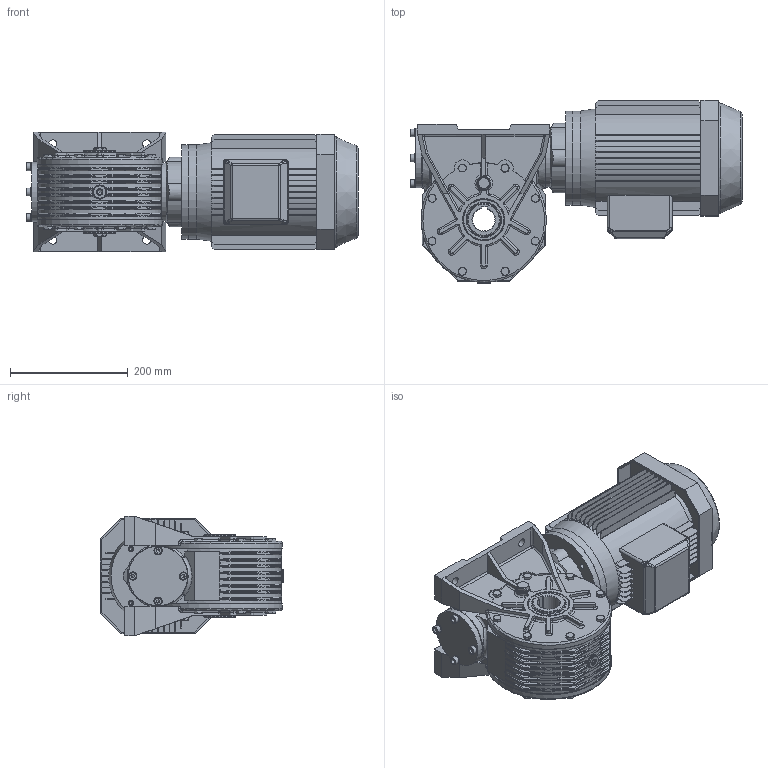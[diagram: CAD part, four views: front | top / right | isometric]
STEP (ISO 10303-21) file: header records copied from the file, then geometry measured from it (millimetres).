
FILE_DESCRIPTION((''),'2;1');
FILE_NAME('Y:\Archivi Inventor\Prog_01\GRAND_50\complessivi\Figurini\MRV50 sito\100l\mrv50_P1_100L_B14.stp','2013-02-08T10:38:04',('tech3'),(''),'Autodesk Inventor 2013','Autodesk Inventor 2013','');
FILE_SCHEMA(('AUTOMOTIVE_DESIGN { 1 0 10303 214 1 1 1 1 }'));
Length unit declared in the file: millimetre
Products named in the file (18): mrv50_100_112_b14; mrv50_fig; Figurino_carcassa_MRV50; 0105028; 0105029; figurino_corona_MRV50; figurino_0105010; Guarnizione 3_8 GAS; Tappo 3_8 GAS_esagn_incsst; Tappo3_8 GAS; figurino_0105009; ISO 4017 M8 x 20; 55_70_8; UNI 6592 8.4 x 14; UNI 5931  M 8 x  25; 0105006; DIN EN ISO 4762 M8 x 20; motori B14 100
Assembly tree (50 placements, depth 3):
  mrv50_100_112_b14
    mrv50_fig
      Figurino_carcassa_MRV50
      0105028  x2
      0105029  x2
      figurino_corona_MRV50
      figurino_0105010  x2
      Guarnizione 3_8 GAS  x4
      Tappo 3_8 GAS_esagn_incsst  x2
      Tappo3_8 GAS  x2
      figurino_0105009
      ISO 4017 M8 x 20  x16
      55_70_8  x2
      UNI 6592 8.4 x 14  x4
      UNI 5931  M 8 x  25  x4
    0105006
    DIN EN ISO 4762 M8 x 20  x4
    motori B14 100
Bounding box: 564.8 x 312.55 x 203.7 mm (x, y, z)
Volume: 13165233.2 mm3; surface area: 1308077.1 mm2
Topology: 61 solids, 63 shells, 2189 faces, 5239 edges, 3096 vertices
Faces by surface type: plane 887, cylinder 671, cone 220, torus 179, bspline 162, sphere 70
Full cylindrical faces by diameter (mm): 2 x2, 6.647 x28, 8 x26, 8.4 x4, 8.5 x52, 11.63 x16, 13 x12, 13.046 x2, 14 x8, 14.95 x4, 16.3 x4, 16.5 x2, 22 x8, 24 x2, 28 x1, 55 x1, 60 x1, 66.4 x2, 69 x2, 70 x5, 72 x4, 73 x2, 75 x1, 99.5 x2, 100 x1, 101 x1, 102 x2, 110 x2, 114.4 x1, 120 x1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
Entity records: 52372 total; most frequent: CARTESIAN_POINT 17521, DIRECTION 7232, ORIENTED_EDGE 6686, EDGE_CURVE 3343, AXIS2_PLACEMENT_3D 2830, VERTEX_POINT 2145, EDGE_LOOP 1858, VECTOR 1572
